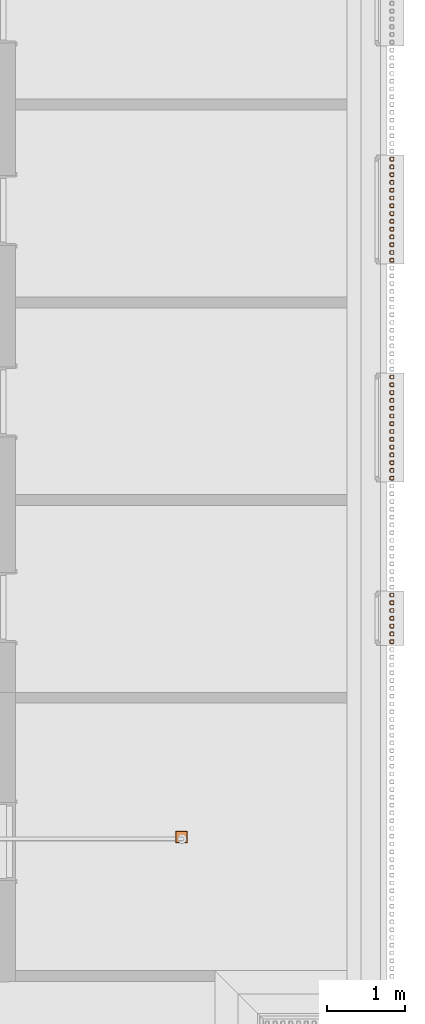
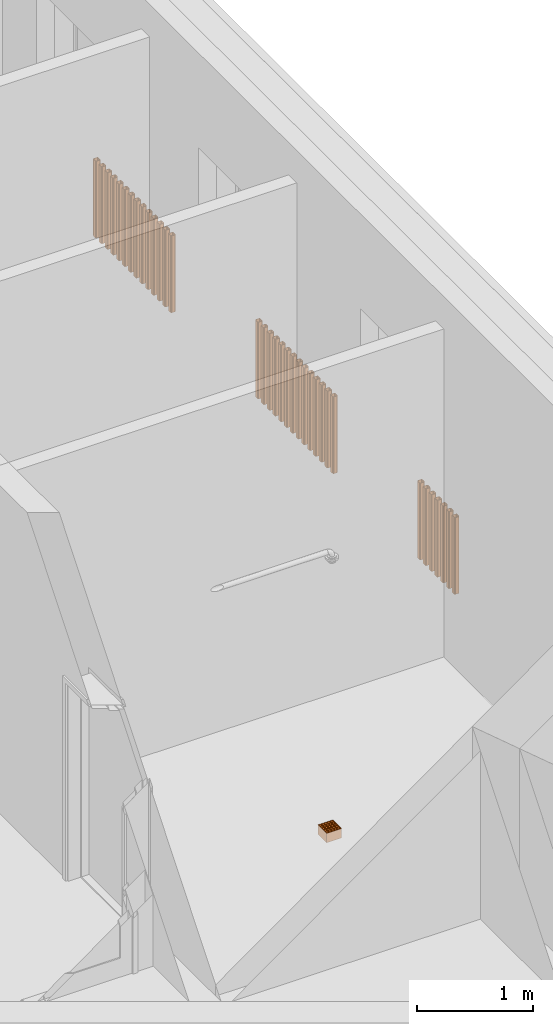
# One storey, part 98 of 112: 36 proxies.
"""IFC2X3 building model written with IfcOpenShell, lengths in millimetres."""

import ifcopenshell
import ifcopenshell.guid

model = None  # the IFC model being written
_history = None  # IfcOwnerHistory: only IFC2X3 demands one
_inside = {}  # id of a spatial element -> (the spatial element, [elements in it])
_under = {}  # id of a project, library or spatial element -> (it, [spatial elements below it])
_declared = {}  # id of a project -> (the project, [libraries it declares])
_typed = {}  # id of a type object -> (the type object, [elements of that type])
_made_of = {}  # id of a material, layer set ... -> (it, [elements and type objects made of it])


def new_model(schema):
    """Start an empty IFC model of exactly this schema.

    Asked for "IFC4X3", IfcOpenShell would pick the latest addendum, in which some entities
    have other attributes; the version numbers below select the first issue.
    IFC2X3 requires an IfcOwnerHistory on every rooted entity: one is made here for all.
    """
    global model, _history
    if schema == "IFC4X3":
        model = ifcopenshell.file(schema_version=(4, 3, 0, 0))
    else:
        model = ifcopenshell.file(schema=schema)
    _inside.clear()
    _under.clear()
    _declared.clear()
    _typed.clear()
    _made_of.clear()
    _history = None
    if model.schema == "IFC2X3":
        org = make("IfcOrganization", Name="unknown")
        user = make(
            "IfcPersonAndOrganization",
            ThePerson=make("IfcPerson", FamilyName="unknown"),
            TheOrganization=org,
        )
        app = make(
            "IfcApplication",
            ApplicationDeveloper=org,
            Version="unknown",
            ApplicationFullName="unknown",
            ApplicationIdentifier="unknown",
        )
        _history = make(
            "IfcOwnerHistory",
            OwningUser=user,
            OwningApplication=app,
            ChangeAction="ADDED",
            CreationDate=0,
        )
    return model


def make(cls, **values):
    """One entity of the class cls with the attributes given. An attribute that is None is left unset."""
    return model.create_entity(
        cls, **{name: value for name, value in values.items() if value is not None}
    )


def entity(cls, *values):
    """Any entity or typed value of the class cls, its attributes in the order of the schema. None: left unset."""
    e = model.create_entity(cls)
    for i, value in enumerate(values):
        if value is not None:
            e[i] = value
    return e


def rooted(cls, **values):
    """An entity with a GlobalId (a new one), such as an element, a storey or a relation."""
    return make(cls, GlobalId=ifcopenshell.guid.new(), OwnerHistory=_history, **values)


def si_unit(unit_type, name, prefix=None):
    """IfcSIUnit, for example si_unit("LENGTHUNIT", "METRE", prefix="MILLI")."""
    return make("IfcSIUnit", UnitType=unit_type, Prefix=prefix, Name=name)


def converted_unit(unit_type, name, factor, base, dimensions=None, offset=None):
    """IfcConversionBasedUnit, such as the inch: factor (a typed value) times the base unit."""
    return make(
        "IfcConversionBasedUnit"
        if offset is None
        else "IfcConversionBasedUnitWithOffset",
        ConversionOffset=offset,
        Dimensions=None
        if dimensions is None
        else entity("IfcDimensionalExponents", *dimensions),
        UnitType=unit_type,
        Name=name,
        ConversionFactor=make(
            "IfcMeasureWithUnit", ValueComponent=factor, UnitComponent=base
        ),
    )


def derived_unit(unit_type, elements):
    """IfcDerivedUnit: a product of units, each with its exponent."""
    return make(
        "IfcDerivedUnit",
        Elements=[
            make("IfcDerivedUnitElement", Unit=unit, Exponent=power)
            for unit, power in elements
        ],
        UnitType=unit_type,
    )


def money_unit(currency):
    """IfcMonetaryUnit."""
    return make("IfcMonetaryUnit", Currency=currency)


def assignment(units):
    """IfcUnitAssignment: the units of a project."""
    return None if units is None else make("IfcUnitAssignment", Units=units)


def point(xyz):
    """IfcCartesianPoint."""
    return None if xyz is None else make("IfcCartesianPoint", Coordinates=xyz)


def direction(xyz):
    """IfcDirection."""
    return None if xyz is None else make("IfcDirection", DirectionRatios=xyz)


def frame(location, z_axis=None, x_axis=None):
    """IfcAxis2Placement3D, a coordinate frame: its origin and axes. An axis left out is left unset."""
    return make(
        "IfcAxis2Placement3D",
        Location=point(location),
        Axis=direction(z_axis),
        RefDirection=direction(x_axis),
    )


def origin_with_axes():
    """The frame at (0, 0, 0) with the z axis (0, 0, 1) and the x axis (1, 0, 0) written out."""
    return frame((0.0, 0.0, 0.0), z_axis=(0.0, 0.0, 1.0), x_axis=(1.0, 0.0, 0.0))


def place(relative_to, where):
    """IfcLocalPlacement: puts the frame where relative to a parent placement (None: the world)."""
    return make(
        "IfcLocalPlacement", PlacementRelTo=relative_to, RelativePlacement=where
    )


def context(
    kind, dimensions, precision=None, world=None, true_north=None, identifier=None
):
    """IfcGeometricRepresentationContext, for example the 3D "Model" context."""
    return make(
        "IfcGeometricRepresentationContext",
        ContextIdentifier=identifier,
        ContextType=kind,
        CoordinateSpaceDimension=dimensions,
        Precision=precision,
        WorldCoordinateSystem=world,
        TrueNorth=true_north,
    )


def subcontext(parent, identifier, kind, view, scale=None):
    """IfcGeometricRepresentationSubContext, for example "Body" below "Model"."""
    return make(
        "IfcGeometricRepresentationSubContext",
        ContextIdentifier=identifier,
        ContextType=kind,
        ParentContext=parent,
        TargetScale=scale,
        TargetView=view,
    )


def project(units=None, contexts=None):
    """IfcProject with its units and contexts."""
    return rooted(
        "IfcProject",
        Name="project",
        RepresentationContexts=contexts,
        UnitsInContext=assignment(units),
    )


def spatial(cls, under=None, at=None, **own):
    """A site, building, storey or space (cls), placed at a placement, below another one or the project."""
    s = rooted(cls, ObjectPlacement=at, **own)
    if under is not None:
        _under.setdefault(under.id(), (under, []))[1].append(s)
    return s


def faces_of(points, faces, orient=None, outer=None):
    """IfcFace entities. A face is a list of loops; a loop is a list of indices into points, from 0.

    orient and outer hold one flag for each loop. By default every Orientation is true, the
    first loop of a face is its IfcFaceOuterBound and the others are IfcFaceBound.
    """
    made = []
    for i, loops in enumerate(faces):
        bounds = []
        for j, loop in enumerate(loops):
            is_outer = j == 0 if outer is None else outer[i][j]
            bounds.append(
                make(
                    "IfcFaceOuterBound" if is_outer else "IfcFaceBound",
                    Bound=make("IfcPolyLoop", Polygon=[points[k] for k in loop]),
                    Orientation=True if orient is None else orient[i][j],
                )
            )
        made.append(make("IfcFace", Bounds=bounds))
    return made


def faceted_brep(points, faces, orient=None, outer=None, voids=None):
    """IfcFacetedBrep: a solid bounded by flat faces; with voids (closed shells), ...WithVoids."""
    shared = [point(p) for p in points]
    hull = make("IfcClosedShell", CfsFaces=faces_of(shared, faces, orient, outer))
    if voids is None:
        return make("IfcFacetedBrep", Outer=hull)
    return make(
        "IfcFacetedBrepWithVoids",
        Outer=hull,
        Voids=[
            make(cls, CfsFaces=faces_of(shared, fs, o, b)) for cls, fs, o, b in voids
        ],
    )


def shape(context_of_items, identifier, shape_type, items):
    """IfcShapeRepresentation: the items that make up one representation, for example the "Body"."""
    return make(
        "IfcShapeRepresentation",
        ContextOfItems=context_of_items,
        RepresentationIdentifier=identifier,
        RepresentationType=shape_type,
        Items=items,
    )


def source(mapping_origin, context_of_items, identifier, shape_type, items):
    """IfcRepresentationMap: a shape defined once, which mapped items show again and again."""
    return make(
        "IfcRepresentationMap",
        MappingOrigin=mapping_origin,
        MappedRepresentation=shape(context_of_items, identifier, shape_type, items),
    )


def transform(
    local_origin,
    x_axis=None,
    y_axis=None,
    z_axis=None,
    scale=None,
    scale2=None,
    scale3=None,
    uniform=True,
):
    """IfcCartesianTransformationOperator3D, or its non-uniform kind. x_axis, y_axis, z_axis: its Axis1, 2, 3."""
    if uniform:
        return make(
            "IfcCartesianTransformationOperator3D",
            Axis1=direction(x_axis),
            Axis2=direction(y_axis),
            LocalOrigin=point(local_origin),
            Scale=scale,
            Axis3=direction(z_axis),
        )
    return make(
        "IfcCartesianTransformationOperator3DnonUniform",
        Axis1=direction(x_axis),
        Axis2=direction(y_axis),
        LocalOrigin=point(local_origin),
        Scale=scale,
        Axis3=direction(z_axis),
        Scale2=scale2,
        Scale3=scale3,
    )


def mapped(mapping_source, mapping_target):
    """IfcMappedItem: shows the shape of a source again, moved by a transform."""
    return make(
        "IfcMappedItem", MappingSource=mapping_source, MappingTarget=mapping_target
    )


def material(Name=None, Category=None):
    """IfcMaterial."""
    return make("IfcMaterial", Name=Name, Category=Category)


def made_of(thing, what):
    """Note that an element or type object is made of a material, layer set ...; save() writes the relation."""
    if what is not None:
        _made_of.setdefault(what.id(), (what, []))[1].append(thing)
    return thing


def type_object(cls, material=None, **own):
    """A type object (cls), such as IfcWallType, which elements share."""
    return made_of(rooted(cls, **own), material)


def element(
    cls,
    number,
    at=None,
    inside=None,
    cuts=None,
    type_object=None,
    material=None,
    context=None,
    identifier="Body",
    shape_type=None,
    held_by="IfcProductDefinitionShape",
    body=None,
    shapes=None,
    **own,
):
    """One element of the class cls, such as IfcWall. Its Tag is "e" and its number.

    at: its placement. inside: the storey or other place that contains it. cuts: it is an
    opening in that element (IfcRelVoidsElement). A single representation is given by context,
    identifier, shape_type and body (its items); several are given by shapes. held_by: the class
    of the entity that holds the representations. save() writes the other relations.
    """
    e = rooted(cls, Tag="e%d" % number, ObjectPlacement=at, **own)
    if body is not None:
        shapes = [shape(context, identifier, shape_type, body)]
    if shapes is not None:
        e.Representation = make(held_by, Representations=shapes)
    if inside is not None:
        _inside.setdefault(inside.id(), (inside, []))[1].append(e)
    if cuts is not None:
        rooted(
            "IfcRelVoidsElement", RelatingBuildingElement=cuts, RelatedOpeningElement=e
        )
    if type_object is not None:
        _typed.setdefault(type_object.id(), (type_object, []))[1].append(e)
    return made_of(e, material)


def aggregate(whole, parts):
    """IfcRelAggregates: a whole, such as a stair, and the parts it consists of."""
    return rooted("IfcRelAggregates", RelatingObject=whole, RelatedObjects=parts)


def save(model, path):
    """Write the relations noted so far, then the file.

    IfcRelAggregates (storeys below a building ...), IfcRelContainedInSpatialStructure (elements
    in a storey), IfcRelDefinesByType, IfcRelAssociatesMaterial and IfcRelDeclares: one each for
    every whole, place, type object, material and project.
    """
    for whole, parts in _under.values():
        aggregate(whole, parts)
    for where, things in _inside.values():
        rooted(
            "IfcRelContainedInSpatialStructure",
            RelatedElements=things,
            RelatingStructure=where,
        )
    for kind, things in _typed.values():
        rooted("IfcRelDefinesByType", RelatedObjects=things, RelatingType=kind)
    for what, things in _made_of.values():
        rooted("IfcRelAssociatesMaterial", RelatedObjects=things, RelatingMaterial=what)
    for by, libraries in _declared.values():
        rooted("IfcRelDeclares", RelatingContext=by, RelatedDefinitions=libraries)
    model.write(path)


model = new_model("IFC2X3")

# Units and contexts
model_context = context("Model", 3, precision=0.01, world=origin_with_axes(), true_north=direction((0.0, 1.0)))
body_context = subcontext(model_context, "Body", "Model", "MODEL_VIEW")
ifc_project = project(units=[si_unit("LENGTHUNIT", "METRE", prefix="MILLI"), si_unit("AREAUNIT", "SQUARE_METRE"), si_unit("VOLUMEUNIT", "CUBIC_METRE"), converted_unit("PLANEANGLEUNIT", "DEGREE", entity("IfcPlaneAngleMeasure", 0.0174532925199), si_unit("PLANEANGLEUNIT", "RADIAN"), dimensions=[0, 0, 0, 0, 0, 0, 0]), si_unit("SOLIDANGLEUNIT", "STERADIAN"), money_unit("EUR"), converted_unit("TIMEUNIT", "Year", entity("IfcTimeMeasure", 31556926.0), si_unit("TIMEUNIT", "SECOND"), dimensions=[0, 0, 1, 0, 0, 0, 0]), si_unit("MASSUNIT", "GRAM", prefix="KILO"), si_unit("THERMODYNAMICTEMPERATUREUNIT", "DEGREE_CELSIUS"), si_unit("LUMINOUSINTENSITYUNIT", "LUMEN"), si_unit("ENERGYUNIT", "JOULE", prefix="MEGA"), derived_unit("THERMALCONDUCTANCEUNIT", [(si_unit("POWERUNIT", "WATT"), 1), (si_unit("LENGTHUNIT", "METRE"), -1), (si_unit("THERMODYNAMICTEMPERATUREUNIT", "KELVIN"), -1)]), derived_unit("SPECIFICHEATCAPACITYUNIT", [(si_unit("ENERGYUNIT", "JOULE"), 1), (si_unit("MASSUNIT", "GRAM", prefix="KILO"), -1), (si_unit("THERMODYNAMICTEMPERATUREUNIT", "KELVIN"), -1)]), derived_unit("MASSDENSITYUNIT", [(si_unit("MASSUNIT", "GRAM", prefix="KILO"), 1), (si_unit("VOLUMEUNIT", "CUBIC_METRE"), -1)])], contexts=[model_context])

# Site, building, storey
site_placement = place(None, origin_with_axes())
site = spatial("IfcSite", under=ifc_project, at=site_placement, Name="Politse- ja Piirivalveameti ning Päästeameti ühishoone", CompositionType="ELEMENT")
building_placement = place(site_placement, origin_with_axes())
building = spatial("IfcBuilding", under=site, at=building_placement, Name="Politse- ja Piirivalveameti ning Päästeameti ühishoone", CompositionType="ELEMENT")
storey_placement = place(building_placement, origin_with_axes())
storey = spatial("IfcBuildingStorey", under=building, at=storey_placement, Name="Esimene korrus", CompositionType="ELEMENT", Elevation=0.0)

# Proxies
building_element_proxy_type_1 = type_object("IfcBuildingElementProxyType", Name="Grid 23", PredefinedType="NOTDEFINED")
shared_shape_1 = source(origin_with_axes(), body_context, "Body", "Brep", [
    faceted_brep([(0.0, 0.0, 0.0), (5.0, 5.0, 0.0), (5.0, 5.0, 100.0), (0.0, 0.0, 100.0), (0.0, 150.0, 0.0), (5.0, 145.0, 0.0), (5.0, 119.5, 0.0), (5.0, 117.5, 0.0), (5.0, 90.5, 0.0), (5.0, 88.5, 0.0), (5.0, 61.5, 0.0), (5.0, 59.5, 0.0), (5.0, 32.5, 0.0), (5.0, 30.5, 0.0), (5.0, 30.5, 100.0), (5.0, 32.5, 100.0), (5.0, 59.5, 100.0), (5.0, 61.5, 100.0), (5.0, 88.5, 100.0), (5.0, 90.5, 100.0), (5.0, 117.5, 100.0), (5.0, 119.5, 100.0), (5.0, 145.0, 100.0), (0.0, 150.0, 100.0)], [[[0, 1, 2, 3]], [[0, 4, 5, 6, 7, 8, 9, 10, 11, 12, 13, 1]], [[1, 13, 14, 2]], [[3, 2, 14, 15, 16, 17, 18, 19, 20, 21, 22, 23]], [[4, 0, 3, 23]], [[5, 4, 23, 22]], [[6, 5, 22, 21]], [[7, 6, 21, 20]], [[8, 7, 20, 19]], [[9, 8, 19, 18]], [[10, 9, 18, 17]], [[11, 10, 17, 16]], [[12, 11, 16, 15]], [[13, 12, 15, 14]]]),
    faceted_brep([(150.0, 150.0, 0.0), (145.0, 145.0, 0.0), (145.0, 145.0, 100.0), (150.0, 150.0, 100.0), (150.0, 0.0, 0.0), (145.0, 5.0, 0.0), (145.0, 30.5, 0.0), (145.0, 32.5, 0.0), (145.0, 59.5, 0.0), (145.0, 61.5, 0.0), (145.0, 88.5, 0.0), (145.0, 90.5, 0.0), (145.0, 117.5, 0.0), (145.0, 119.5, 0.0), (145.0, 119.5, 100.0), (145.0, 117.5, 100.0), (145.0, 90.5, 100.0), (145.0, 88.5, 100.0), (145.0, 61.5, 100.0), (145.0, 59.5, 100.0), (145.0, 32.5, 100.0), (145.0, 30.5, 100.0), (145.0, 5.0, 100.0), (150.0, 0.0, 100.0)], [[[0, 1, 2, 3]], [[0, 4, 5, 6, 7, 8, 9, 10, 11, 12, 13, 1]], [[1, 13, 14, 2]], [[3, 2, 14, 15, 16, 17, 18, 19, 20, 21, 22, 23]], [[4, 0, 3, 23]], [[5, 4, 23, 22]], [[6, 5, 22, 21]], [[7, 6, 21, 20]], [[8, 7, 20, 19]], [[9, 8, 19, 18]], [[10, 9, 18, 17]], [[11, 10, 17, 16]], [[12, 11, 16, 15]], [[13, 12, 15, 14]]]),
    faceted_brep([(150.0, 0.0, 0.0), (145.0, 5.0, 0.0), (145.0, 5.0, 100.0), (150.0, 0.0, 100.0), (0.0, 0.0, 0.0), (5.0, 5.0, 0.0), (30.5, 5.0, 0.0), (32.5, 5.0, 0.0), (59.5, 5.0, 0.0), (61.5, 5.0, 0.0), (88.5, 5.0, 0.0), (90.5, 5.0, 0.0), (117.5, 5.0, 0.0), (119.5, 5.0, 0.0), (119.5, 5.0, 100.0), (117.5, 5.0, 100.0), (90.5, 5.0, 100.0), (88.5, 5.0, 100.0), (61.5, 5.0, 100.0), (59.5, 5.0, 100.0), (32.5, 5.0, 100.0), (30.5, 5.0, 100.0), (5.0, 5.0, 100.0), (0.0, 0.0, 100.0)], [[[0, 1, 2, 3]], [[0, 4, 5, 6, 7, 8, 9, 10, 11, 12, 13, 1]], [[1, 13, 14, 2]], [[3, 2, 14, 15, 16, 17, 18, 19, 20, 21, 22, 23]], [[4, 0, 3, 23]], [[5, 4, 23, 22]], [[6, 5, 22, 21]], [[7, 6, 21, 20]], [[8, 7, 20, 19]], [[9, 8, 19, 18]], [[10, 9, 18, 17]], [[11, 10, 17, 16]], [[12, 11, 16, 15]], [[13, 12, 15, 14]]]),
    faceted_brep([(0.0, 150.0, 0.0), (5.0, 145.0, 0.0), (5.0, 145.0, 100.0), (0.0, 150.0, 100.0), (150.0, 150.0, 0.0), (145.0, 145.0, 0.0), (119.5, 145.0, 0.0), (117.5, 145.0, 0.0), (90.5, 145.0, 0.0), (88.5, 145.0, 0.0), (61.5, 145.0, 0.0), (59.5, 145.0, 0.0), (32.5, 145.0, 0.0), (30.5, 145.0, 0.0), (30.5, 145.0, 100.0), (32.5, 145.0, 100.0), (59.5, 145.0, 100.0), (61.5, 145.0, 100.0), (88.5, 145.0, 100.0), (90.5, 145.0, 100.0), (117.5, 145.0, 100.0), (119.5, 145.0, 100.0), (145.0, 145.0, 100.0), (150.0, 150.0, 100.0)], [[[0, 1, 2, 3]], [[0, 4, 5, 6, 7, 8, 9, 10, 11, 12, 13, 1]], [[1, 13, 14, 2]], [[3, 2, 14, 15, 16, 17, 18, 19, 20, 21, 22, 23]], [[4, 0, 3, 23]], [[5, 4, 23, 22]], [[6, 5, 22, 21]], [[7, 6, 21, 20]], [[8, 7, 20, 19]], [[9, 8, 19, 18]], [[10, 9, 18, 17]], [[11, 10, 17, 16]], [[12, 11, 16, 15]], [[13, 12, 15, 14]]]),
    faceted_brep([(30.5, 5.0, 0.0), (32.5, 5.0, 0.0), (32.5, 5.0, 100.0), (30.5, 5.0, 100.0), (30.5, 30.5, 0.0), (30.5, 32.5, 0.0), (30.5, 59.5, 0.0), (30.5, 61.5, 0.0), (30.5, 88.5, 0.0), (30.5, 90.5, 0.0), (30.5, 117.5, 0.0), (30.5, 119.5, 0.0), (30.5, 145.0, 0.0), (32.5, 145.0, 0.0), (32.5, 119.5, 0.0), (32.5, 117.5, 0.0), (32.5, 90.5, 0.0), (32.5, 88.5, 0.0), (32.5, 61.5, 0.0), (32.5, 59.5, 0.0), (32.5, 32.5, 0.0), (32.5, 30.5, 0.0), (32.5, 30.5, 100.0), (32.5, 32.5, 100.0), (32.5, 59.5, 100.0), (32.5, 61.5, 100.0), (32.5, 88.5, 100.0), (32.5, 90.5, 100.0), (32.5, 117.5, 100.0), (32.5, 119.5, 100.0), (32.5, 145.0, 100.0), (30.5, 145.0, 100.0), (30.5, 119.5, 100.0), (30.5, 117.5, 100.0), (30.5, 90.5, 100.0), (30.5, 88.5, 100.0), (30.5, 61.5, 100.0), (30.5, 59.5, 100.0), (30.5, 32.5, 100.0), (30.5, 30.5, 100.0)], [[[0, 1, 2, 3]], [[0, 4, 5, 6, 7, 8, 9, 10, 11, 12, 13, 14, 15, 16, 17, 18, 19, 20, 21, 1]], [[1, 21, 22, 2]], [[3, 2, 22, 23, 24, 25, 26, 27, 28, 29, 30, 31, 32, 33, 34, 35, 36, 37, 38, 39]], [[4, 0, 3, 39]], [[5, 4, 39, 38]], [[6, 5, 38, 37]], [[7, 6, 37, 36]], [[8, 7, 36, 35]], [[9, 8, 35, 34]], [[10, 9, 34, 33]], [[11, 10, 33, 32]], [[12, 11, 32, 31]], [[13, 12, 31, 30]], [[14, 13, 30, 29]], [[15, 14, 29, 28]], [[16, 15, 28, 27]], [[17, 16, 27, 26]], [[18, 17, 26, 25]], [[19, 18, 25, 24]], [[20, 19, 24, 23]], [[21, 20, 23, 22]]]),
    faceted_brep([(59.5, 5.0, 0.0), (61.5, 5.0, 0.0), (61.5, 5.0, 100.0), (59.5, 5.0, 100.0), (59.5, 30.5, 0.0), (59.5, 32.5, 0.0), (59.5, 59.5, 0.0), (59.5, 61.5, 0.0), (59.5, 88.5, 0.0), (59.5, 90.5, 0.0), (59.5, 117.5, 0.0), (59.5, 119.5, 0.0), (59.5, 145.0, 0.0), (61.5, 145.0, 0.0), (61.5, 119.5, 0.0), (61.5, 117.5, 0.0), (61.5, 90.5, 0.0), (61.5, 88.5, 0.0), (61.5, 61.5, 0.0), (61.5, 59.5, 0.0), (61.5, 32.5, 0.0), (61.5, 30.5, 0.0), (61.5, 30.5, 100.0), (61.5, 32.5, 100.0), (61.5, 59.5, 100.0), (61.5, 61.5, 100.0), (61.5, 88.5, 100.0), (61.5, 90.5, 100.0), (61.5, 117.5, 100.0), (61.5, 119.5, 100.0), (61.5, 145.0, 100.0), (59.5, 145.0, 100.0), (59.5, 119.5, 100.0), (59.5, 117.5, 100.0), (59.5, 90.5, 100.0), (59.5, 88.5, 100.0), (59.5, 61.5, 100.0), (59.5, 59.5, 100.0), (59.5, 32.5, 100.0), (59.5, 30.5, 100.0)], [[[0, 1, 2, 3]], [[0, 4, 5, 6, 7, 8, 9, 10, 11, 12, 13, 14, 15, 16, 17, 18, 19, 20, 21, 1]], [[1, 21, 22, 2]], [[3, 2, 22, 23, 24, 25, 26, 27, 28, 29, 30, 31, 32, 33, 34, 35, 36, 37, 38, 39]], [[4, 0, 3, 39]], [[5, 4, 39, 38]], [[6, 5, 38, 37]], [[7, 6, 37, 36]], [[8, 7, 36, 35]], [[9, 8, 35, 34]], [[10, 9, 34, 33]], [[11, 10, 33, 32]], [[12, 11, 32, 31]], [[13, 12, 31, 30]], [[14, 13, 30, 29]], [[15, 14, 29, 28]], [[16, 15, 28, 27]], [[17, 16, 27, 26]], [[18, 17, 26, 25]], [[19, 18, 25, 24]], [[20, 19, 24, 23]], [[21, 20, 23, 22]]]),
    faceted_brep([(88.5, 5.0, 0.0), (90.5, 5.0, 0.0), (90.5, 5.0, 100.0), (88.5, 5.0, 100.0), (88.5, 30.5, 0.0), (88.5, 32.5, 0.0), (88.5, 59.5, 0.0), (88.5, 61.5, 0.0), (88.5, 88.5, 0.0), (88.5, 90.5, 0.0), (88.5, 117.5, 0.0), (88.5, 119.5, 0.0), (88.5, 145.0, 0.0), (90.5, 145.0, 0.0), (90.5, 119.5, 0.0), (90.5, 117.5, 0.0), (90.5, 90.5, 0.0), (90.5, 88.5, 0.0), (90.5, 61.5, 0.0), (90.5, 59.5, 0.0), (90.5, 32.5, 0.0), (90.5, 30.5, 0.0), (90.5, 30.5, 100.0), (90.5, 32.5, 100.0), (90.5, 59.5, 100.0), (90.5, 61.5, 100.0), (90.5, 88.5, 100.0), (90.5, 90.5, 100.0), (90.5, 117.5, 100.0), (90.5, 119.5, 100.0), (90.5, 145.0, 100.0), (88.5, 145.0, 100.0), (88.5, 119.5, 100.0), (88.5, 117.5, 100.0), (88.5, 90.5, 100.0), (88.5, 88.5, 100.0), (88.5, 61.5, 100.0), (88.5, 59.5, 100.0), (88.5, 32.5, 100.0), (88.5, 30.5, 100.0)], [[[0, 1, 2, 3]], [[0, 4, 5, 6, 7, 8, 9, 10, 11, 12, 13, 14, 15, 16, 17, 18, 19, 20, 21, 1]], [[1, 21, 22, 2]], [[3, 2, 22, 23, 24, 25, 26, 27, 28, 29, 30, 31, 32, 33, 34, 35, 36, 37, 38, 39]], [[4, 0, 3, 39]], [[5, 4, 39, 38]], [[6, 5, 38, 37]], [[7, 6, 37, 36]], [[8, 7, 36, 35]], [[9, 8, 35, 34]], [[10, 9, 34, 33]], [[11, 10, 33, 32]], [[12, 11, 32, 31]], [[13, 12, 31, 30]], [[14, 13, 30, 29]], [[15, 14, 29, 28]], [[16, 15, 28, 27]], [[17, 16, 27, 26]], [[18, 17, 26, 25]], [[19, 18, 25, 24]], [[20, 19, 24, 23]], [[21, 20, 23, 22]]]),
    faceted_brep([(117.5, 5.0, 0.0), (119.5, 5.0, 0.0), (119.5, 5.0, 100.0), (117.5, 5.0, 100.0), (117.5, 30.5, 0.0), (117.5, 32.5, 0.0), (117.5, 59.5, 0.0), (117.5, 61.5, 0.0), (117.5, 88.5, 0.0), (117.5, 90.5, 0.0), (117.5, 117.5, 0.0), (117.5, 119.5, 0.0), (117.5, 145.0, 0.0), (119.5, 145.0, 0.0), (119.5, 119.5, 0.0), (119.5, 117.5, 0.0), (119.5, 90.5, 0.0), (119.5, 88.5, 0.0), (119.5, 61.5, 0.0), (119.5, 59.5, 0.0), (119.5, 32.5, 0.0), (119.5, 30.5, 0.0), (119.5, 30.5, 100.0), (119.5, 32.5, 100.0), (119.5, 59.5, 100.0), (119.5, 61.5, 100.0), (119.5, 88.5, 100.0), (119.5, 90.5, 100.0), (119.5, 117.5, 100.0), (119.5, 119.5, 100.0), (119.5, 145.0, 100.0), (117.5, 145.0, 100.0), (117.5, 119.5, 100.0), (117.5, 117.5, 100.0), (117.5, 90.5, 100.0), (117.5, 88.5, 100.0), (117.5, 61.5, 100.0), (117.5, 59.5, 100.0), (117.5, 32.5, 100.0), (117.5, 30.5, 100.0)], [[[0, 1, 2, 3]], [[0, 4, 5, 6, 7, 8, 9, 10, 11, 12, 13, 14, 15, 16, 17, 18, 19, 20, 21, 1]], [[1, 21, 22, 2]], [[3, 2, 22, 23, 24, 25, 26, 27, 28, 29, 30, 31, 32, 33, 34, 35, 36, 37, 38, 39]], [[4, 0, 3, 39]], [[5, 4, 39, 38]], [[6, 5, 38, 37]], [[7, 6, 37, 36]], [[8, 7, 36, 35]], [[9, 8, 35, 34]], [[10, 9, 34, 33]], [[11, 10, 33, 32]], [[12, 11, 32, 31]], [[13, 12, 31, 30]], [[14, 13, 30, 29]], [[15, 14, 29, 28]], [[16, 15, 28, 27]], [[17, 16, 27, 26]], [[18, 17, 26, 25]], [[19, 18, 25, 24]], [[20, 19, 24, 23]], [[21, 20, 23, 22]]]),
    faceted_brep([(30.5, 30.5, 0.0), (30.5, 32.5, 0.0), (30.5, 32.5, 100.0), (30.5, 30.5, 100.0), (5.0, 30.5, 0.0), (5.0, 32.5, 0.0), (5.0, 32.5, 100.0), (5.0, 30.5, 100.0)], [[[0, 1, 2, 3]], [[0, 4, 5, 1]], [[1, 5, 6, 2]], [[3, 2, 6, 7]], [[4, 0, 3, 7]], [[5, 4, 7, 6]]]),
    faceted_brep([(30.5, 59.5, 0.0), (30.5, 61.5, 0.0), (30.5, 61.5, 100.0), (30.5, 59.5, 100.0), (5.0, 59.5, 0.0), (5.0, 61.5, 0.0), (5.0, 61.5, 100.0), (5.0, 59.5, 100.0)], [[[0, 1, 2, 3]], [[0, 4, 5, 1]], [[1, 5, 6, 2]], [[3, 2, 6, 7]], [[4, 0, 3, 7]], [[5, 4, 7, 6]]]),
    faceted_brep([(30.5, 88.5, 0.0), (30.5, 90.5, 0.0), (30.5, 90.5, 100.0), (30.5, 88.5, 100.0), (5.0, 88.5, 0.0), (5.0, 90.5, 0.0), (5.0, 90.5, 100.0), (5.0, 88.5, 100.0)], [[[0, 1, 2, 3]], [[0, 4, 5, 1]], [[1, 5, 6, 2]], [[3, 2, 6, 7]], [[4, 0, 3, 7]], [[5, 4, 7, 6]]]),
    faceted_brep([(30.5, 117.5, 0.0), (30.5, 119.5, 0.0), (30.5, 119.5, 100.0), (30.5, 117.5, 100.0), (5.0, 117.5, 0.0), (5.0, 119.5, 0.0), (5.0, 119.5, 100.0), (5.0, 117.5, 100.0)], [[[0, 1, 2, 3]], [[0, 4, 5, 1]], [[1, 5, 6, 2]], [[3, 2, 6, 7]], [[4, 0, 3, 7]], [[5, 4, 7, 6]]]),
    faceted_brep([(59.5, 30.5, 0.0), (59.5, 32.5, 0.0), (59.5, 32.5, 100.0), (59.5, 30.5, 100.0), (32.5, 30.5, 0.0), (32.5, 32.5, 0.0), (32.5, 32.5, 100.0), (32.5, 30.5, 100.0)], [[[0, 1, 2, 3]], [[0, 4, 5, 1]], [[1, 5, 6, 2]], [[3, 2, 6, 7]], [[4, 0, 3, 7]], [[5, 4, 7, 6]]]),
    faceted_brep([(59.5, 59.5, 0.0), (59.5, 61.5, 0.0), (59.5, 61.5, 100.0), (59.5, 59.5, 100.0), (32.5, 59.5, 0.0), (32.5, 61.5, 0.0), (32.5, 61.5, 100.0), (32.5, 59.5, 100.0)], [[[0, 1, 2, 3]], [[0, 4, 5, 1]], [[1, 5, 6, 2]], [[3, 2, 6, 7]], [[4, 0, 3, 7]], [[5, 4, 7, 6]]]),
    faceted_brep([(59.5, 88.5, 0.0), (59.5, 90.5, 0.0), (59.5, 90.5, 100.0), (59.5, 88.5, 100.0), (32.5, 88.5, 0.0), (32.5, 90.5, 0.0), (32.5, 90.5, 100.0), (32.5, 88.5, 100.0)], [[[0, 1, 2, 3]], [[0, 4, 5, 1]], [[1, 5, 6, 2]], [[3, 2, 6, 7]], [[4, 0, 3, 7]], [[5, 4, 7, 6]]]),
    faceted_brep([(59.5, 117.5, 0.0), (59.5, 119.5, 0.0), (59.5, 119.5, 100.0), (59.5, 117.5, 100.0), (32.5, 117.5, 0.0), (32.5, 119.5, 0.0), (32.5, 119.5, 100.0), (32.5, 117.5, 100.0)], [[[0, 1, 2, 3]], [[0, 4, 5, 1]], [[1, 5, 6, 2]], [[3, 2, 6, 7]], [[4, 0, 3, 7]], [[5, 4, 7, 6]]]),
    faceted_brep([(88.5, 30.5, 0.0), (88.5, 32.5, 0.0), (88.5, 32.5, 100.0), (88.5, 30.5, 100.0), (61.5, 30.5, 0.0), (61.5, 32.5, 0.0), (61.5, 32.5, 100.0), (61.5, 30.5, 100.0)], [[[0, 1, 2, 3]], [[0, 4, 5, 1]], [[1, 5, 6, 2]], [[3, 2, 6, 7]], [[4, 0, 3, 7]], [[5, 4, 7, 6]]]),
    faceted_brep([(88.5, 59.5, 0.0), (88.5, 61.5, 0.0), (88.5, 61.5, 100.0), (88.5, 59.5, 100.0), (61.5, 59.5, 0.0), (61.5, 61.5, 0.0), (61.5, 61.5, 100.0), (61.5, 59.5, 100.0)], [[[0, 1, 2, 3]], [[0, 4, 5, 1]], [[1, 5, 6, 2]], [[3, 2, 6, 7]], [[4, 0, 3, 7]], [[5, 4, 7, 6]]]),
    faceted_brep([(88.5, 88.5, 0.0), (88.5, 90.5, 0.0), (88.5, 90.5, 100.0), (88.5, 88.5, 100.0), (61.5, 88.5, 0.0), (61.5, 90.5, 0.0), (61.5, 90.5, 100.0), (61.5, 88.5, 100.0)], [[[0, 1, 2, 3]], [[0, 4, 5, 1]], [[1, 5, 6, 2]], [[3, 2, 6, 7]], [[4, 0, 3, 7]], [[5, 4, 7, 6]]]),
    faceted_brep([(88.5, 117.5, 0.0), (88.5, 119.5, 0.0), (88.5, 119.5, 100.0), (88.5, 117.5, 100.0), (61.5, 117.5, 0.0), (61.5, 119.5, 0.0), (61.5, 119.5, 100.0), (61.5, 117.5, 100.0)], [[[0, 1, 2, 3]], [[0, 4, 5, 1]], [[1, 5, 6, 2]], [[3, 2, 6, 7]], [[4, 0, 3, 7]], [[5, 4, 7, 6]]]),
    faceted_brep([(117.5, 30.5, 0.0), (117.5, 32.5, 0.0), (117.5, 32.5, 100.0), (117.5, 30.5, 100.0), (90.5, 30.5, 0.0), (90.5, 32.5, 0.0), (90.5, 32.5, 100.0), (90.5, 30.5, 100.0)], [[[0, 1, 2, 3]], [[0, 4, 5, 1]], [[1, 5, 6, 2]], [[3, 2, 6, 7]], [[4, 0, 3, 7]], [[5, 4, 7, 6]]]),
    faceted_brep([(117.5, 59.5, 0.0), (117.5, 61.5, 0.0), (117.5, 61.5, 100.0), (117.5, 59.5, 100.0), (90.5, 59.5, 0.0), (90.5, 61.5, 0.0), (90.5, 61.5, 100.0), (90.5, 59.5, 100.0)], [[[0, 1, 2, 3]], [[0, 4, 5, 1]], [[1, 5, 6, 2]], [[3, 2, 6, 7]], [[4, 0, 3, 7]], [[5, 4, 7, 6]]]),
    faceted_brep([(117.5, 88.5, 0.0), (117.5, 90.5, 0.0), (117.5, 90.5, 100.0), (117.5, 88.5, 100.0), (90.5, 88.5, 0.0), (90.5, 90.5, 0.0), (90.5, 90.5, 100.0), (90.5, 88.5, 100.0)], [[[0, 1, 2, 3]], [[0, 4, 5, 1]], [[1, 5, 6, 2]], [[3, 2, 6, 7]], [[4, 0, 3, 7]], [[5, 4, 7, 6]]]),
    faceted_brep([(117.5, 117.5, 0.0), (117.5, 119.5, 0.0), (117.5, 119.5, 100.0), (117.5, 117.5, 100.0), (90.5, 117.5, 0.0), (90.5, 119.5, 0.0), (90.5, 119.5, 100.0), (90.5, 117.5, 100.0)], [[[0, 1, 2, 3]], [[0, 4, 5, 1]], [[1, 5, 6, 2]], [[3, 2, 6, 7]], [[4, 0, 3, 7]], [[5, 4, 7, 6]]]),
    faceted_brep([(145.0, 30.5, 0.0), (145.0, 32.5, 0.0), (145.0, 32.5, 100.0), (145.0, 30.5, 100.0), (119.5, 30.5, 0.0), (119.5, 32.5, 0.0), (119.5, 32.5, 100.0), (119.5, 30.5, 100.0)], [[[0, 1, 2, 3]], [[0, 4, 5, 1]], [[1, 5, 6, 2]], [[3, 2, 6, 7]], [[4, 0, 3, 7]], [[5, 4, 7, 6]]]),
    faceted_brep([(145.0, 59.5, 0.0), (145.0, 61.5, 0.0), (145.0, 61.5, 100.0), (145.0, 59.5, 100.0), (119.5, 59.5, 0.0), (119.5, 61.5, 0.0), (119.5, 61.5, 100.0), (119.5, 59.5, 100.0)], [[[0, 1, 2, 3]], [[0, 4, 5, 1]], [[1, 5, 6, 2]], [[3, 2, 6, 7]], [[4, 0, 3, 7]], [[5, 4, 7, 6]]]),
    faceted_brep([(145.0, 88.5, 0.0), (145.0, 90.5, 0.0), (145.0, 90.5, 100.0), (145.0, 88.5, 100.0), (119.5, 88.5, 0.0), (119.5, 90.5, 0.0), (119.5, 90.5, 100.0), (119.5, 88.5, 100.0)], [[[0, 1, 2, 3]], [[0, 4, 5, 1]], [[1, 5, 6, 2]], [[3, 2, 6, 7]], [[4, 0, 3, 7]], [[5, 4, 7, 6]]]),
    faceted_brep([(145.0, 117.5, 0.0), (145.0, 119.5, 0.0), (145.0, 119.5, 100.0), (145.0, 117.5, 100.0), (119.5, 117.5, 0.0), (119.5, 119.5, 0.0), (119.5, 119.5, 100.0), (119.5, 117.5, 100.0)], [[[0, 1, 2, 3]], [[0, 4, 5, 1]], [[1, 5, 6, 2]], [[3, 2, 6, 7]], [[4, 0, 3, 7]], [[5, 4, 7, 6]]]),
    faceted_brep([(5.0, 5.0, 43.65), (30.5, 5.0, 43.65), (30.5, 5.0, 56.35), (5.0, 5.0, 56.35), (5.0, 30.5, 43.65), (30.5, 30.5, 43.65), (30.5, 30.5, 56.35), (5.0, 30.5, 56.35)], [[[0, 1, 2, 3]], [[0, 4, 5, 1]], [[1, 5, 6, 2]], [[3, 2, 6, 7]], [[4, 0, 3, 7]], [[5, 4, 7, 6]]]),
    faceted_brep([(5.0, 32.5, 43.65), (30.5, 32.5, 43.65), (30.5, 32.5, 56.35), (5.0, 32.5, 56.35), (5.0, 59.5, 43.65), (30.5, 59.5, 43.65), (30.5, 59.5, 56.35), (5.0, 59.5, 56.35)], [[[0, 1, 2, 3]], [[0, 4, 5, 1]], [[1, 5, 6, 2]], [[3, 2, 6, 7]], [[4, 0, 3, 7]], [[5, 4, 7, 6]]]),
    faceted_brep([(5.0, 61.5, 43.65), (30.5, 61.5, 43.65), (30.5, 61.5, 56.35), (5.0, 61.5, 56.35), (5.0, 88.5, 43.65), (30.5, 88.5, 43.65), (30.5, 88.5, 56.35), (5.0, 88.5, 56.35)], [[[0, 1, 2, 3]], [[0, 4, 5, 1]], [[1, 5, 6, 2]], [[3, 2, 6, 7]], [[4, 0, 3, 7]], [[5, 4, 7, 6]]]),
    faceted_brep([(5.0, 90.5, 43.65), (30.5, 90.5, 43.65), (30.5, 90.5, 56.35), (5.0, 90.5, 56.35), (5.0, 117.5, 43.65), (30.5, 117.5, 43.65), (30.5, 117.5, 56.35), (5.0, 117.5, 56.35)], [[[0, 1, 2, 3]], [[0, 4, 5, 1]], [[1, 5, 6, 2]], [[3, 2, 6, 7]], [[4, 0, 3, 7]], [[5, 4, 7, 6]]]),
    faceted_brep([(5.0, 119.5, 43.65), (30.5, 119.5, 43.65), (30.5, 119.5, 56.35), (5.0, 119.5, 56.35), (5.0, 145.0, 43.65), (30.5, 145.0, 43.65), (30.5, 145.0, 56.35), (5.0, 145.0, 56.35)], [[[0, 1, 2, 3]], [[0, 4, 5, 1]], [[1, 5, 6, 2]], [[3, 2, 6, 7]], [[4, 0, 3, 7]], [[5, 4, 7, 6]]]),
    faceted_brep([(32.5, 5.0, 43.65), (59.5, 5.0, 43.65), (59.5, 5.0, 56.35), (32.5, 5.0, 56.35), (32.5, 30.5, 43.65), (59.5, 30.5, 43.65), (59.5, 30.5, 56.35), (32.5, 30.5, 56.35)], [[[0, 1, 2, 3]], [[0, 4, 5, 1]], [[1, 5, 6, 2]], [[3, 2, 6, 7]], [[4, 0, 3, 7]], [[5, 4, 7, 6]]]),
    faceted_brep([(32.5, 32.5, 43.65), (59.5, 32.5, 43.65), (59.5, 32.5, 56.35), (32.5, 32.5, 56.35), (32.5, 59.5, 43.65), (59.5, 59.5, 43.65), (59.5, 59.5, 56.35), (32.5, 59.5, 56.35)], [[[0, 1, 2, 3]], [[0, 4, 5, 1]], [[1, 5, 6, 2]], [[3, 2, 6, 7]], [[4, 0, 3, 7]], [[5, 4, 7, 6]]]),
    faceted_brep([(32.5, 61.5, 43.65), (59.5, 61.5, 43.65), (59.5, 61.5, 56.35), (32.5, 61.5, 56.35), (32.5, 88.5, 43.65), (59.5, 88.5, 43.65), (59.5, 88.5, 56.35), (32.5, 88.5, 56.35)], [[[0, 1, 2, 3]], [[0, 4, 5, 1]], [[1, 5, 6, 2]], [[3, 2, 6, 7]], [[4, 0, 3, 7]], [[5, 4, 7, 6]]]),
    faceted_brep([(32.5, 90.5, 43.65), (59.5, 90.5, 43.65), (59.5, 90.5, 56.35), (32.5, 90.5, 56.35), (32.5, 117.5, 43.65), (59.5, 117.5, 43.65), (59.5, 117.5, 56.35), (32.5, 117.5, 56.35)], [[[0, 1, 2, 3]], [[0, 4, 5, 1]], [[1, 5, 6, 2]], [[3, 2, 6, 7]], [[4, 0, 3, 7]], [[5, 4, 7, 6]]]),
    faceted_brep([(32.5, 119.5, 43.65), (59.5, 119.5, 43.65), (59.5, 119.5, 56.35), (32.5, 119.5, 56.35), (32.5, 145.0, 43.65), (59.5, 145.0, 43.65), (59.5, 145.0, 56.35), (32.5, 145.0, 56.35)], [[[0, 1, 2, 3]], [[0, 4, 5, 1]], [[1, 5, 6, 2]], [[3, 2, 6, 7]], [[4, 0, 3, 7]], [[5, 4, 7, 6]]]),
    faceted_brep([(61.5, 5.0, 43.65), (88.5, 5.0, 43.65), (88.5, 5.0, 56.35), (61.5, 5.0, 56.35), (61.5, 30.5, 43.65), (88.5, 30.5, 43.65), (88.5, 30.5, 56.35), (61.5, 30.5, 56.35)], [[[0, 1, 2, 3]], [[0, 4, 5, 1]], [[1, 5, 6, 2]], [[3, 2, 6, 7]], [[4, 0, 3, 7]], [[5, 4, 7, 6]]]),
    faceted_brep([(61.5, 32.5, 43.65), (88.5, 32.5, 43.65), (88.5, 32.5, 56.35), (61.5, 32.5, 56.35), (61.5, 59.5, 43.65), (88.5, 59.5, 43.65), (88.5, 59.5, 56.35), (61.5, 59.5, 56.35)], [[[0, 1, 2, 3]], [[0, 4, 5, 1]], [[1, 5, 6, 2]], [[3, 2, 6, 7]], [[4, 0, 3, 7]], [[5, 4, 7, 6]]]),
    faceted_brep([(61.5, 61.5, 43.65), (88.5, 61.5, 43.65), (88.5, 61.5, 56.35), (61.5, 61.5, 56.35), (61.5, 88.5, 43.65), (88.5, 88.5, 43.65), (88.5, 88.5, 56.35), (61.5, 88.5, 56.35)], [[[0, 1, 2, 3]], [[0, 4, 5, 1]], [[1, 5, 6, 2]], [[3, 2, 6, 7]], [[4, 0, 3, 7]], [[5, 4, 7, 6]]]),
    faceted_brep([(61.5, 90.5, 43.65), (88.5, 90.5, 43.65), (88.5, 90.5, 56.35), (61.5, 90.5, 56.35), (61.5, 117.5, 43.65), (88.5, 117.5, 43.65), (88.5, 117.5, 56.35), (61.5, 117.5, 56.35)], [[[0, 1, 2, 3]], [[0, 4, 5, 1]], [[1, 5, 6, 2]], [[3, 2, 6, 7]], [[4, 0, 3, 7]], [[5, 4, 7, 6]]]),
    faceted_brep([(61.5, 119.5, 43.65), (88.5, 119.5, 43.65), (88.5, 119.5, 56.35), (61.5, 119.5, 56.35), (61.5, 145.0, 43.65), (88.5, 145.0, 43.65), (88.5, 145.0, 56.35), (61.5, 145.0, 56.35)], [[[0, 1, 2, 3]], [[0, 4, 5, 1]], [[1, 5, 6, 2]], [[3, 2, 6, 7]], [[4, 0, 3, 7]], [[5, 4, 7, 6]]]),
    faceted_brep([(90.5, 5.0, 43.65), (117.5, 5.0, 43.65), (117.5, 5.0, 56.35), (90.5, 5.0, 56.35), (90.5, 30.5, 43.65), (117.5, 30.5, 43.65), (117.5, 30.5, 56.35), (90.5, 30.5, 56.35)], [[[0, 1, 2, 3]], [[0, 4, 5, 1]], [[1, 5, 6, 2]], [[3, 2, 6, 7]], [[4, 0, 3, 7]], [[5, 4, 7, 6]]]),
    faceted_brep([(90.5, 32.5, 43.65), (117.5, 32.5, 43.65), (117.5, 32.5, 56.35), (90.5, 32.5, 56.35), (90.5, 59.5, 43.65), (117.5, 59.5, 43.65), (117.5, 59.5, 56.35), (90.5, 59.5, 56.35)], [[[0, 1, 2, 3]], [[0, 4, 5, 1]], [[1, 5, 6, 2]], [[3, 2, 6, 7]], [[4, 0, 3, 7]], [[5, 4, 7, 6]]]),
    faceted_brep([(90.5, 61.5, 43.65), (117.5, 61.5, 43.65), (117.5, 61.5, 56.35), (90.5, 61.5, 56.35), (90.5, 88.5, 43.65), (117.5, 88.5, 43.65), (117.5, 88.5, 56.35), (90.5, 88.5, 56.35)], [[[0, 1, 2, 3]], [[0, 4, 5, 1]], [[1, 5, 6, 2]], [[3, 2, 6, 7]], [[4, 0, 3, 7]], [[5, 4, 7, 6]]]),
    faceted_brep([(90.5, 90.5, 43.65), (117.5, 90.5, 43.65), (117.5, 90.5, 56.35), (90.5, 90.5, 56.35), (90.5, 117.5, 43.65), (117.5, 117.5, 43.65), (117.5, 117.5, 56.35), (90.5, 117.5, 56.35)], [[[0, 1, 2, 3]], [[0, 4, 5, 1]], [[1, 5, 6, 2]], [[3, 2, 6, 7]], [[4, 0, 3, 7]], [[5, 4, 7, 6]]]),
    faceted_brep([(90.5, 119.5, 43.65), (117.5, 119.5, 43.65), (117.5, 119.5, 56.35), (90.5, 119.5, 56.35), (90.5, 145.0, 43.65), (117.5, 145.0, 43.65), (117.5, 145.0, 56.35), (90.5, 145.0, 56.35)], [[[0, 1, 2, 3]], [[0, 4, 5, 1]], [[1, 5, 6, 2]], [[3, 2, 6, 7]], [[4, 0, 3, 7]], [[5, 4, 7, 6]]]),
    faceted_brep([(119.5, 5.0, 43.65), (145.0, 5.0, 43.65), (145.0, 5.0, 56.35), (119.5, 5.0, 56.35), (119.5, 30.5, 43.65), (145.0, 30.5, 43.65), (145.0, 30.5, 56.35), (119.5, 30.5, 56.35)], [[[0, 1, 2, 3]], [[0, 4, 5, 1]], [[1, 5, 6, 2]], [[3, 2, 6, 7]], [[4, 0, 3, 7]], [[5, 4, 7, 6]]]),
    faceted_brep([(119.5, 32.5, 43.65), (145.0, 32.5, 43.65), (145.0, 32.5, 56.35), (119.5, 32.5, 56.35), (119.5, 59.5, 43.65), (145.0, 59.5, 43.65), (145.0, 59.5, 56.35), (119.5, 59.5, 56.35)], [[[0, 1, 2, 3]], [[0, 4, 5, 1]], [[1, 5, 6, 2]], [[3, 2, 6, 7]], [[4, 0, 3, 7]], [[5, 4, 7, 6]]]),
    faceted_brep([(119.5, 61.5, 43.65), (145.0, 61.5, 43.65), (145.0, 61.5, 56.35), (119.5, 61.5, 56.35), (119.5, 88.5, 43.65), (145.0, 88.5, 43.65), (145.0, 88.5, 56.35), (119.5, 88.5, 56.35)], [[[0, 1, 2, 3]], [[0, 4, 5, 1]], [[1, 5, 6, 2]], [[3, 2, 6, 7]], [[4, 0, 3, 7]], [[5, 4, 7, 6]]]),
    faceted_brep([(119.5, 90.5, 43.65), (145.0, 90.5, 43.65), (145.0, 90.5, 56.35), (119.5, 90.5, 56.35), (119.5, 117.5, 43.65), (145.0, 117.5, 43.65), (145.0, 117.5, 56.35), (119.5, 117.5, 56.35)], [[[0, 1, 2, 3]], [[0, 4, 5, 1]], [[1, 5, 6, 2]], [[3, 2, 6, 7]], [[4, 0, 3, 7]], [[5, 4, 7, 6]]]),
    faceted_brep([(119.5, 119.5, 43.65), (145.0, 119.5, 43.65), (145.0, 119.5, 56.35), (119.5, 119.5, 56.35), (119.5, 145.0, 43.65), (145.0, 145.0, 43.65), (145.0, 145.0, 56.35), (119.5, 145.0, 56.35)], [[[0, 1, 2, 3]], [[0, 4, 5, 1]], [[1, 5, 6, 2]], [[3, 2, 6, 7]], [[4, 0, 3, 7]], [[5, 4, 7, 6]]]),
])
proxy_placement = place(storey_placement, frame((67456.8607891, 18065.438908, -100.0), z_axis=(0.0, 0.0, 1.0), x_axis=(1.0, 0.0, 0.0)))
element("IfcBuildingElementProxy", 1, at=proxy_placement, inside=storey, type_object=building_element_proxy_type_1, Name="Trapp (126)", context=body_context, shape_type="MappedRepresentation", body=[
    mapped(shared_shape_1, transform((0.0, 0.0, 0.0))),
])
ifc_material = material(Name="ET-05_Teras")
building_element_proxy_type_2 = type_object("IfcBuildingElementProxyType", Name="SHS Cold-Formed Column 23", PredefinedType="NOTDEFINED")
shared_shape_2 = source(origin_with_axes(), body_context, "Body", "Brep", [
    faceted_brep([(-17.0, -25.0, 0.0), (17.0, -25.0, 0.0), (17.0, -25.0, 810.0), (-17.0, -25.0, 810.0), (-22.6568542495, -22.6568542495, 0.0), (-25.0, -17.0, 0.0), (-25.0, 17.0, 0.0), (-22.6568542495, 22.6568542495, 0.0), (-17.0, 25.0, 0.0), (17.0, 25.0, 0.0), (22.6568542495, 22.6568542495, 0.0), (25.0, 17.0, 0.0), (25.0, -17.0, 0.0), (22.6568542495, -22.6568542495, 0.0), (-17.0, -21.0, 0.0), (17.0, -21.0, 0.0), (19.8284271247, -19.8284271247, 0.0), (21.0, -17.0, 0.0), (21.0, 17.0, 0.0), (19.8284271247, 19.8284271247, 0.0), (17.0, 21.0, 0.0), (-17.0, 21.0, 0.0), (-19.8284271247, 19.8284271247, 0.0), (-21.0, 17.0, 0.0), (-21.0, -17.0, 0.0), (-19.8284271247, -19.8284271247, 0.0), (22.6568542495, -22.6568542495, 810.0), (25.0, -17.0, 810.0), (25.0, 17.0, 810.0), (22.6568542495, 22.6568542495, 810.0), (17.0, 25.0, 810.0), (-17.0, 25.0, 810.0), (-22.6568542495, 22.6568542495, 810.0), (-25.0, 17.0, 810.0), (-25.0, -17.0, 810.0), (-22.6568542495, -22.6568542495, 810.0), (-17.0, -21.0, 810.0), (-19.8284271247, -19.8284271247, 810.0), (-21.0, -17.0, 810.0), (-21.0, 17.0, 810.0), (-19.8284271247, 19.8284271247, 810.0), (-17.0, 21.0, 810.0), (17.0, 21.0, 810.0), (19.8284271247, 19.8284271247, 810.0), (21.0, 17.0, 810.0), (21.0, -17.0, 810.0), (19.8284271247, -19.8284271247, 810.0), (17.0, -21.0, 810.0)], [[[0, 1, 2, 3]], [[0, 4, 5, 6, 7, 8, 9, 10, 11, 12, 13, 1], [14, 15, 16, 17, 18, 19, 20, 21, 22, 23, 24, 25]], [[1, 13, 26, 2]], [[3, 2, 26, 27, 28, 29, 30, 31, 32, 33, 34, 35], [36, 37, 38, 39, 40, 41, 42, 43, 44, 45, 46, 47]], [[4, 0, 3, 35]], [[5, 4, 35, 34]], [[6, 5, 34, 33]], [[7, 6, 33, 32]], [[8, 7, 32, 31]], [[9, 8, 31, 30]], [[10, 9, 30, 29]], [[11, 10, 29, 28]], [[12, 11, 28, 27]], [[13, 12, 27, 26]], [[15, 14, 36, 47]], [[16, 15, 47, 46]], [[17, 16, 46, 45]], [[18, 17, 45, 44]], [[19, 18, 44, 43]], [[20, 19, 43, 42]], [[21, 20, 42, 41]], [[22, 21, 41, 40]], [[23, 22, 40, 39]], [[24, 23, 39, 38]], [[25, 24, 38, 37]], [[14, 25, 37, 36]]]),
])
for number, where, z_axis, x_axis in (
    (2, (70235.2095212, 21250.0702441, 0.0), (0.0, 0.0, 1.0), (1.0, 0.0, 0.0)),
    (3, (70235.2095212, 21150.0702441, 0.0), (0.0, 0.0, 1.0), (1.0, 0.0, 0.0)),
    (4, (70235.2095212, 21050.0702441, 0.0), (0.0, 0.0, 1.0), (1.0, 0.0, 0.0)),
    (5, (70235.2095212, 20950.0702441, 0.0), (0.0, 0.0, 1.0), (1.0, 0.0, 0.0)),
    (6, (70235.2095212, 20850.0702441, 0.0), (0.0, 0.0, 1.0), (1.0, 0.0, 0.0)),
    (7, (70235.2095212, 20750.0702441, 0.0), (0.0, 0.0, 1.0), (1.0, 0.0, 0.0)),
    (8, (70235.2095212, 20650.0702441, 0.0), (0.0, 0.0, 1.0), (1.0, 0.0, 0.0)),
    (9, (70235.2095212, 22750.0702441, 0.0), (0.0, 0.0, 1.0), (1.0, 0.0, 0.0)),
    (10, (70235.2095212, 22850.0702441, 0.0), (0.0, 0.0, 1.0), (1.0, 0.0, 0.0)),
    (11, (70235.2095212, 22950.0702441, 0.0), (0.0, 0.0, 1.0), (1.0, 0.0, 0.0)),
    (12, (70235.2095212, 23050.0702441, 0.0), (0.0, 0.0, 1.0), (1.0, 0.0, 0.0)),
    (13, (70235.2095212, 23150.0702441, 0.0), (0.0, 0.0, 1.0), (1.0, 0.0, 0.0)),
    (14, (70235.2095212, 23250.0702441, 0.0), (0.0, 0.0, 1.0), (1.0, 0.0, 0.0)),
    (15, (70235.2095212, 23350.0702441, 0.0), (0.0, 0.0, 1.0), (1.0, 0.0, 0.0)),
    (16, (70235.2095212, 23450.0702441, 0.0), (0.0, 0.0, 1.0), (1.0, 0.0, 0.0)),
    (17, (70235.2095212, 23550.0702441, 0.0), (0.0, 0.0, 1.0), (1.0, 0.0, 0.0)),
    (18, (70235.2095212, 23650.0702441, 0.0), (0.0, 0.0, 1.0), (1.0, 0.0, 0.0)),
    (19, (70235.2095212, 23750.0702441, 0.0), (0.0, 0.0, 1.0), (1.0, 0.0, 0.0)),
    (20, (70235.2095212, 23850.0702441, 0.0), (0.0, 0.0, 1.0), (1.0, 0.0, 0.0)),
    (21, (70235.2095212, 23950.0702441, 0.0), (0.0, 0.0, 1.0), (1.0, 0.0, 0.0)),
    (22, (70235.2095212, 24050.0702441, 0.0), (0.0, 0.0, 1.0), (1.0, 0.0, 0.0)),
    (23, (70235.2095212, 25550.0702441, 0.0), (0.0, 0.0, 1.0), (1.0, 0.0, 0.0)),
    (24, (70235.2095212, 25650.0702441, 0.0), (0.0, 0.0, 1.0), (1.0, 0.0, 0.0)),
    (25, (70235.2095212, 25750.0702441, 0.0), (0.0, 0.0, 1.0), (1.0, 0.0, 0.0)),
    (26, (70235.2095212, 25850.0702441, 0.0), (0.0, 0.0, 1.0), (1.0, 0.0, 0.0)),
    (27, (70235.2095212, 25950.0702441, 0.0), (0.0, 0.0, 1.0), (1.0, 0.0, 0.0)),
    (28, (70235.2095212, 26050.0702441, 0.0), (0.0, 0.0, 1.0), (1.0, 0.0, 0.0)),
    (29, (70235.2095212, 26150.0702441, 0.0), (0.0, 0.0, 1.0), (1.0, 0.0, 0.0)),
    (30, (70235.2095212, 26250.0702441, 0.0), (0.0, 0.0, 1.0), (1.0, 0.0, 0.0)),
    (31, (70235.2095212, 26350.0702441, 0.0), (0.0, 0.0, 1.0), (1.0, 0.0, 0.0)),
    (32, (70235.2095212, 26450.0702441, 0.0), (0.0, 0.0, 1.0), (1.0, 0.0, 0.0)),
    (33, (70235.2095212, 26550.0702441, 0.0), (0.0, 0.0, 1.0), (1.0, 0.0, 0.0)),
    (34, (70235.2095212, 26650.0702441, 0.0), (0.0, 0.0, 1.0), (1.0, 0.0, 0.0)),
    (35, (70235.2095212, 26750.0702441, 0.0), (0.0, 0.0, 1.0), (1.0, 0.0, 0.0)),
    (36, (70235.2095212, 26850.0702441, 0.0), (0.0, 0.0, 1.0), (1.0, 0.0, 0.0)),
):
    element("IfcBuildingElementProxy", number, at=place(storey_placement, frame(where, z_axis=z_axis, x_axis=x_axis)), inside=storey, type_object=building_element_proxy_type_2, material=ifc_material, Name="Fassaadiribid", context=body_context, shape_type="MappedRepresentation", body=[
        mapped(shared_shape_2, transform((0.0, 0.0, 0.0))),
    ])

save(model, "model.ifc")
